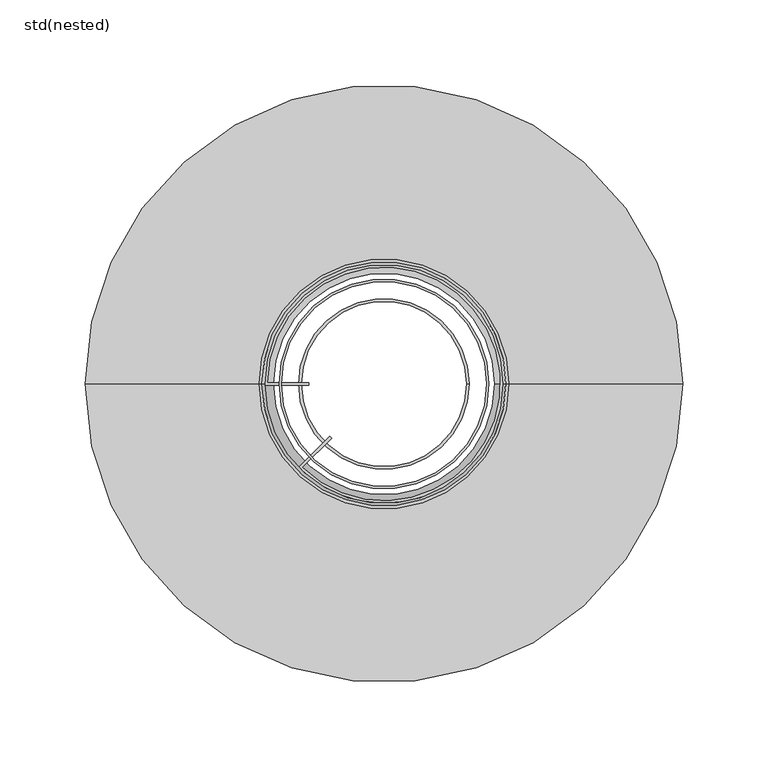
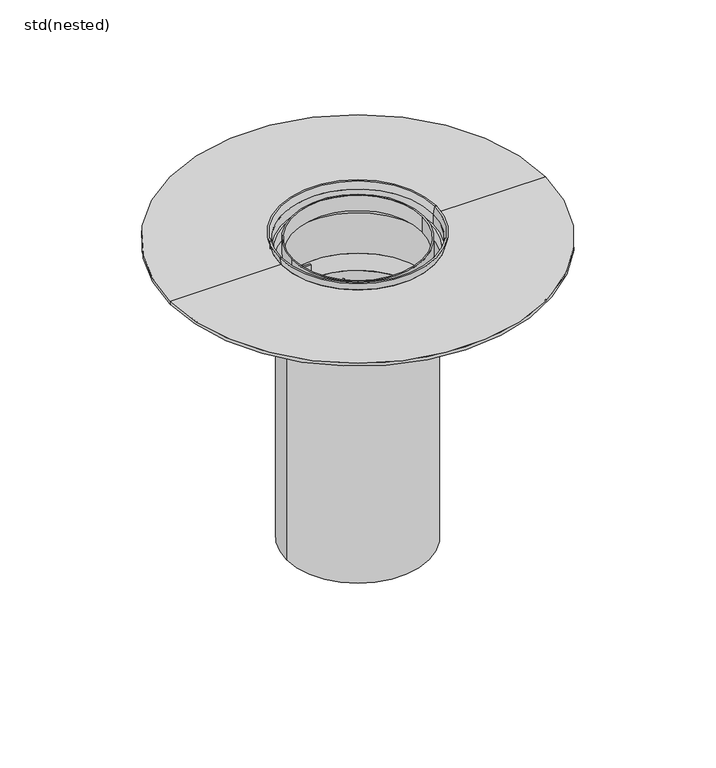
"""IFC4 building model written with IfcOpenShell, lengths in millimetres: sanitary terminal geometry, ZZZ_do not use_PF_ST_UN_balcony gully 300_ACO : std(nested)."""

import ifcopenshell
import ifcopenshell.guid

model = None  # the IFC model being written
_history = None  # IfcOwnerHistory: only IFC2X3 demands one
_inside = {}  # id of a spatial element -> (the spatial element, [elements in it])
_under = {}  # id of a project, library or spatial element -> (it, [spatial elements below it])
_declared = {}  # id of a project -> (the project, [libraries it declares])
_typed = {}  # id of a type object -> (the type object, [elements of that type])
_made_of = {}  # id of a material, layer set ... -> (it, [elements and type objects made of it])


def new_model(schema):
    """Start an empty IFC model of exactly this schema.

    Asked for "IFC4X3", IfcOpenShell would pick the latest addendum, in which some entities
    have other attributes; the version numbers below select the first issue.
    IFC2X3 requires an IfcOwnerHistory on every rooted entity: one is made here for all.
    """
    global model, _history
    if schema == "IFC4X3":
        model = ifcopenshell.file(schema_version=(4, 3, 0, 0))
    else:
        model = ifcopenshell.file(schema=schema)
    _inside.clear()
    _under.clear()
    _declared.clear()
    _typed.clear()
    _made_of.clear()
    _history = None
    if model.schema == "IFC2X3":
        org = make("IfcOrganization", Name="unknown")
        user = make(
            "IfcPersonAndOrganization",
            ThePerson=make("IfcPerson", FamilyName="unknown"),
            TheOrganization=org,
        )
        app = make(
            "IfcApplication",
            ApplicationDeveloper=org,
            Version="unknown",
            ApplicationFullName="unknown",
            ApplicationIdentifier="unknown",
        )
        _history = make(
            "IfcOwnerHistory",
            OwningUser=user,
            OwningApplication=app,
            ChangeAction="ADDED",
            CreationDate=0,
        )
    return model


def make(cls, **values):
    """One entity of the class cls with the attributes given. An attribute that is None is left unset."""
    return model.create_entity(
        cls, **{name: value for name, value in values.items() if value is not None}
    )


def rooted(cls, **values):
    """An entity with a GlobalId (a new one), such as an element, a storey or a relation."""
    return make(cls, GlobalId=ifcopenshell.guid.new(), OwnerHistory=_history, **values)


def si_unit(unit_type, name, prefix=None):
    """IfcSIUnit, for example si_unit("LENGTHUNIT", "METRE", prefix="MILLI")."""
    return make("IfcSIUnit", UnitType=unit_type, Prefix=prefix, Name=name)


def assignment(units):
    """IfcUnitAssignment: the units of a project."""
    return None if units is None else make("IfcUnitAssignment", Units=units)


def point(xyz):
    """IfcCartesianPoint."""
    return None if xyz is None else make("IfcCartesianPoint", Coordinates=xyz)


def direction(xyz):
    """IfcDirection."""
    return None if xyz is None else make("IfcDirection", DirectionRatios=xyz)


def frame(location, z_axis=None, x_axis=None):
    """IfcAxis2Placement3D, a coordinate frame: its origin and axes. An axis left out is left unset."""
    return make(
        "IfcAxis2Placement3D",
        Location=point(location),
        Axis=direction(z_axis),
        RefDirection=direction(x_axis),
    )


def frame_2d(location, x_axis=None):
    """IfcAxis2Placement2D, a coordinate frame in the plane: its origin and x axis."""
    return make(
        "IfcAxis2Placement2D", Location=point(location), RefDirection=direction(x_axis)
    )


def origin():
    """The frame at (0, 0, 0) with its axes left unset."""
    return frame((0.0, 0.0, 0.0))


def origin_2d():
    """The frame at (0, 0) in the plane with its x axis left unset."""
    return frame_2d((0.0, 0.0))


def place(relative_to, where):
    """IfcLocalPlacement: puts the frame where relative to a parent placement (None: the world)."""
    return make(
        "IfcLocalPlacement", PlacementRelTo=relative_to, RelativePlacement=where
    )


def context(
    kind, dimensions, precision=None, world=None, true_north=None, identifier=None
):
    """IfcGeometricRepresentationContext, for example the 3D "Model" context."""
    return make(
        "IfcGeometricRepresentationContext",
        ContextIdentifier=identifier,
        ContextType=kind,
        CoordinateSpaceDimension=dimensions,
        Precision=precision,
        WorldCoordinateSystem=world,
        TrueNorth=true_north,
    )


def project(units=None, contexts=None):
    """IfcProject with its units and contexts."""
    return rooted(
        "IfcProject",
        Name="project",
        RepresentationContexts=contexts,
        UnitsInContext=assignment(units),
    )


def spatial(cls, under=None, at=None, **own):
    """A site, building, storey or space (cls), placed at a placement, below another one or the project."""
    s = rooted(cls, ObjectPlacement=at, **own)
    if under is not None:
        _under.setdefault(under.id(), (under, []))[1].append(s)
    return s


def polyline(points):
    """IfcPolyline through the points."""
    return make("IfcPolyline", Points=[point(p) for p in points])


def circle_curve(where, radius):
    """IfcCircle in the frame where."""
    return make("IfcCircle", Position=where, Radius=radius)


def trimmed(basis, trim1, trim2, sense, master):
    """IfcTrimmedCurve: the piece of a basis curve between two trims."""
    return make(
        "IfcTrimmedCurve",
        BasisCurve=basis,
        Trim1=trim1,
        Trim2=trim2,
        SenseAgreement=sense,
        MasterRepresentation=master,
    )


def segment(curve, same_sense, transition):
    """IfcCompositeCurveSegment."""
    return make(
        "IfcCompositeCurveSegment",
        Transition=transition,
        SameSense=same_sense,
        ParentCurve=curve,
    )


def composite_curve(segments, self_intersect=None):
    """IfcCompositeCurve: segments joined end to end."""
    return make("IfcCompositeCurve", Segments=segments, SelfIntersect=self_intersect)


def outline(outer, holes=None, kind="AREA"):
    """IfcArbitraryClosedProfileDef: a profile drawn as a closed curve; with holes, ...WithVoids."""
    if holes is None:
        return make("IfcArbitraryClosedProfileDef", ProfileType=kind, OuterCurve=outer)
    return make(
        "IfcArbitraryProfileDefWithVoids",
        ProfileType=kind,
        OuterCurve=outer,
        InnerCurves=holes,
    )


def extrude(swept, where, along, depth):
    """IfcExtrudedAreaSolid: the profile swept, set in the frame where, extruded along a direction by depth."""
    return make(
        "IfcExtrudedAreaSolid",
        SweptArea=swept,
        Position=where,
        ExtrudedDirection=direction(along),
        Depth=depth,
    )


def shape(context_of_items, identifier, shape_type, items):
    """IfcShapeRepresentation: the items that make up one representation, for example the "Body"."""
    return make(
        "IfcShapeRepresentation",
        ContextOfItems=context_of_items,
        RepresentationIdentifier=identifier,
        RepresentationType=shape_type,
        Items=items,
    )


def source(mapping_origin, context_of_items, identifier, shape_type, items):
    """IfcRepresentationMap: a shape defined once, which mapped items show again and again."""
    return make(
        "IfcRepresentationMap",
        MappingOrigin=mapping_origin,
        MappedRepresentation=shape(context_of_items, identifier, shape_type, items),
    )


def transform(
    local_origin,
    x_axis=None,
    y_axis=None,
    z_axis=None,
    scale=None,
    scale2=None,
    scale3=None,
    uniform=True,
):
    """IfcCartesianTransformationOperator3D, or its non-uniform kind. x_axis, y_axis, z_axis: its Axis1, 2, 3."""
    if uniform:
        return make(
            "IfcCartesianTransformationOperator3D",
            Axis1=direction(x_axis),
            Axis2=direction(y_axis),
            LocalOrigin=point(local_origin),
            Scale=scale,
            Axis3=direction(z_axis),
        )
    return make(
        "IfcCartesianTransformationOperator3DnonUniform",
        Axis1=direction(x_axis),
        Axis2=direction(y_axis),
        LocalOrigin=point(local_origin),
        Scale=scale,
        Axis3=direction(z_axis),
        Scale2=scale2,
        Scale3=scale3,
    )


def mapped(mapping_source, mapping_target):
    """IfcMappedItem: shows the shape of a source again, moved by a transform."""
    return make(
        "IfcMappedItem", MappingSource=mapping_source, MappingTarget=mapping_target
    )


def made_of(thing, what):
    """Note that an element or type object is made of a material, layer set ...; save() writes the relation."""
    if what is not None:
        _made_of.setdefault(what.id(), (what, []))[1].append(thing)
    return thing


def element(
    cls,
    number,
    at=None,
    inside=None,
    cuts=None,
    type_object=None,
    material=None,
    context=None,
    identifier="Body",
    shape_type=None,
    held_by="IfcProductDefinitionShape",
    body=None,
    shapes=None,
    **own,
):
    """One element of the class cls, such as IfcWall. Its Tag is "e" and its number.

    at: its placement. inside: the storey or other place that contains it. cuts: it is an
    opening in that element (IfcRelVoidsElement). A single representation is given by context,
    identifier, shape_type and body (its items); several are given by shapes. held_by: the class
    of the entity that holds the representations. save() writes the other relations.
    """
    e = rooted(cls, Tag="e%d" % number, ObjectPlacement=at, **own)
    if body is not None:
        shapes = [shape(context, identifier, shape_type, body)]
    if shapes is not None:
        e.Representation = make(held_by, Representations=shapes)
    if inside is not None:
        _inside.setdefault(inside.id(), (inside, []))[1].append(e)
    if cuts is not None:
        rooted(
            "IfcRelVoidsElement", RelatingBuildingElement=cuts, RelatedOpeningElement=e
        )
    if type_object is not None:
        _typed.setdefault(type_object.id(), (type_object, []))[1].append(e)
    return made_of(e, material)


def aggregate(whole, parts):
    """IfcRelAggregates: a whole, such as a stair, and the parts it consists of."""
    return rooted("IfcRelAggregates", RelatingObject=whole, RelatedObjects=parts)


def save(model, path):
    """Write the relations noted so far, then the file.

    IfcRelAggregates (storeys below a building ...), IfcRelContainedInSpatialStructure (elements
    in a storey), IfcRelDefinesByType, IfcRelAssociatesMaterial and IfcRelDeclares: one each for
    every whole, place, type object, material and project.
    """
    for whole, parts in _under.values():
        aggregate(whole, parts)
    for where, things in _inside.values():
        rooted(
            "IfcRelContainedInSpatialStructure",
            RelatedElements=things,
            RelatingStructure=where,
        )
    for kind, things in _typed.values():
        rooted("IfcRelDefinesByType", RelatedObjects=things, RelatingType=kind)
    for what, things in _made_of.values():
        rooted("IfcRelAssociatesMaterial", RelatedObjects=things, RelatingMaterial=what)
    for by, libraries in _declared.values():
        rooted("IfcRelDeclares", RelatingContext=by, RelatedDefinitions=libraries)
    model.write(path)


def plane_surface(at):
    """IfcPlane: the flat surface through the origin of the frame at, square to its z axis."""
    return make("IfcPlane", Position=at)


def cylinder_surface(at, radius):
    """IfcCylindricalSurface: all points at the distance radius from the z axis of the frame at."""
    return make("IfcCylindricalSurface", Position=at, Radius=radius)


def revolved_surface(curve, axis_point, axis_direction):
    """IfcSurfaceOfRevolution: the curve turned about the line through axis_point along axis_direction."""
    return make(
        "IfcSurfaceOfRevolution",
        SweptCurve=make("IfcArbitraryOpenProfileDef", ProfileType="CURVE", Curve=curve),
        AxisPosition=make("IfcAxis1Placement", Location=point(axis_point), Axis=direction(axis_direction)),
    )


def advanced_brep(points, edges, surfaces, faces):
    """IfcAdvancedBrep: a solid bounded by faces that lie on surfaces and meet in shared edges.

    An edge is (start, end): straight between two places in points (the first is 0);
    or (start, end, curve); or (start, end, curve, False) where it runs against its curve.
    A face is (place in surfaces, loops), or (place, loops, False) where it looks against
    its surface's normal. A loop lists edges by number (the first is 1), with a minus sign
    where the edge is run from its end to its start. The first loop is the outer one.
    """
    corners = [point(p) for p in points]
    vertices = [make("IfcVertexPoint", VertexGeometry=c) for c in corners]
    made = []
    for start, end, *more in edges:
        made.append(
            make(
                "IfcEdgeCurve",
                EdgeStart=vertices[start],
                EdgeEnd=vertices[end],
                EdgeGeometry=more[0] if more else make("IfcPolyline", Points=[corners[start], corners[end]]),
                SameSense=more[1] if len(more) > 1 else True,
            )
        )
    hull = []
    for where, loops, *sense in faces:
        bounds = []
        for j, loop in enumerate(loops):
            ring = [make("IfcOrientedEdge", EdgeElement=made[abs(k) - 1], Orientation=k > 0) for k in loop]
            bounds.append(
                make(
                    "IfcFaceOuterBound" if j == 0 else "IfcFaceBound",
                    Bound=make("IfcEdgeLoop", EdgeList=ring),
                    Orientation=True,
                )
            )
        hull.append(make("IfcAdvancedFace", Bounds=bounds, FaceSurface=surfaces[where], SameSense=sense[0] if sense else True))
    return make("IfcAdvancedBrep", Outer=make("IfcClosedShell", CfsFaces=hull))


def std_nested_11a4e83f(model_context):
    return source(origin(), model_context, "Body", "SolidModel", [
        extrude(outline(composite_curve([segment(trimmed(circle_curve(origin_2d(), 61.5), [point((-61.5, 0.0))], [point((61.5, 0.0))], False, "CARTESIAN"), True, "CONTINUOUS"), segment(trimmed(circle_curve(origin_2d(), 61.5), [point((61.5, 0.0))], [point((-61.5, 0.0))], False, "CARTESIAN"), True, "CONTINUOUS")], self_intersect=False), holes=[composite_curve([segment(trimmed(circle_curve(origin_2d(), 60.0), [point((-60.0, 0.0))], [point((60.0, 0.0))], True, "CARTESIAN"), True, "CONTINUOUS"), segment(trimmed(circle_curve(origin_2d(), 60.0), [point((60.0, 0.0))], [point((-60.0, 0.0))], True, "CARTESIAN"), True, "CONTINUOUS")], self_intersect=False)]), frame((0.0, 0.0, -21.0), z_axis=(0.0, 0.0, 1.0), x_axis=(1.0, 0.0, 0.0)), (0.0, 0.0, 1.0), 15.0),
        advanced_brep(
        [(71.6480246, 0.0, -7.0), (-71.6480246, 0.0, -7.0), (-73.1480246, 0.0, 0.0), (73.1480246, 0.0, 0.0), (71.6480246, 0.0, -70.0), (-71.6480246, 0.0, -70.0), (66.5, 0.0, -83.5), (-66.5, 0.0, -83.5), (66.5, 0.0, -300.0), (-66.5, 0.0, -300.0), (64.8519754, 0.0, -300.0), (-64.8519754, 0.0, -300.0), (64.8519754, 0.0, -83.5), (-64.8519754, 0.0, -83.5), (70.0, 0.0, -70.0), (-70.0, 0.0, -70.0), (70.0, 0.0, -29.0), (-70.0, 0.0, -29.0), (70.0, 0.0, -7.0), (-70.0, 0.0, -7.0), (-70.0, 0.0, -16.3795872), (70.0, 0.0, -16.3795872), (-69.9954284, -0.8, -29.0), (-69.9954284, -0.8, -16.3795872), (-50.0599275, -48.9285567, -16.3795872), (-50.0599275, -48.9285567, -29.0), (71.5, 0.0, 0.0), (-71.5, 0.0, 0.0), (-31.6783838, -30.5470129, -29.0), (-30.5470129, -31.6783838, -29.0), (-47.7971102, -48.928481, -29.0), (-68.3953215, 0.8, -29.0), (-44.0, 0.8, -29.0), (-44.0, -0.8, -29.0), (-44.0, -0.8, -16.3795872), (-44.0, 0.8, -16.3795872), (-68.3953215, 0.8, -16.3795872), (-47.7971102, -48.928481, -16.3795872), (-30.5470129, -31.6783838, -16.3795872), (-31.6783838, -30.5470129, -16.3795872)],
        [
            (0, 1, circle_curve(frame((0.0, 0.0, -7.0), z_axis=(0.0, 0.0, 1.0), x_axis=(-1.0, 0.0, 0.0)), 71.6480246)),
            (1, 2),
            (2, 3, circle_curve(frame((0.0, 0.0, 0.0), z_axis=(0.0, 0.0, -1.0), x_axis=(-1.0, 0.0, 0.0)), 73.1480246)),
            (3, 0),
            (1, 0, circle_curve(frame((0.0, 0.0, -7.0), z_axis=(0.0, 0.0, 1.0), x_axis=(-1.0, 0.0, 0.0)), 71.6480246)),
            (3, 2, circle_curve(frame((0.0, 0.0, 0.0), z_axis=(0.0, 0.0, -1.0), x_axis=(-1.0, 0.0, 0.0)), 73.1480246)),
            (0, 4),
            (4, 5, circle_curve(frame((0.0, 0.0, -70.0), z_axis=(0.0, 0.0, 1.0), x_axis=(-1.0, 0.0, 0.0)), 71.6480246)),
            (5, 1),
            (5, 4, circle_curve(frame((0.0, 0.0, -70.0), z_axis=(0.0, 0.0, 1.0), x_axis=(-1.0, 0.0, 0.0)), 71.6480246)),
            (4, 6),
            (6, 7, circle_curve(frame((0.0, 0.0, -83.5), z_axis=(0.0, 0.0, 1.0), x_axis=(-1.0, 0.0, 0.0)), 66.5)),
            (7, 5),
            (7, 6, circle_curve(frame((0.0, 0.0, -83.5), z_axis=(0.0, 0.0, 1.0), x_axis=(-1.0, 0.0, 0.0)), 66.5)),
            (6, 8),
            (8, 9, circle_curve(frame((0.0, 0.0, -300.0), z_axis=(0.0, 0.0, 1.0), x_axis=(-1.0, 0.0, 0.0)), 66.5)),
            (9, 7),
            (9, 8, circle_curve(frame((0.0, 0.0, -300.0), z_axis=(0.0, 0.0, 1.0), x_axis=(-1.0, 0.0, 0.0)), 66.5)),
            (8, 10),
            (10, 11, circle_curve(frame((0.0, 0.0, -300.0), z_axis=(0.0, 0.0, 1.0), x_axis=(-1.0, 0.0, 0.0)), 64.8519754)),
            (11, 9),
            (11, 10, circle_curve(frame((0.0, 0.0, -300.0), z_axis=(0.0, 0.0, 1.0), x_axis=(-1.0, 0.0, 0.0)), 64.8519754)),
            (10, 12),
            (12, 13, circle_curve(frame((0.0, 0.0, -83.5), z_axis=(0.0, 0.0, 1.0), x_axis=(-1.0, 0.0, 0.0)), 64.8519754)),
            (13, 11),
            (13, 12, circle_curve(frame((0.0, 0.0, -83.5), z_axis=(0.0, 0.0, 1.0), x_axis=(-1.0, 0.0, 0.0)), 64.8519754)),
            (12, 14),
            (14, 15, circle_curve(frame((0.0, 0.0, -70.0), z_axis=(0.0, 0.0, 1.0), x_axis=(-1.0, 0.0, 0.0)), 70.0)),
            (15, 13),
            (15, 14, circle_curve(frame((0.0, 0.0, -70.0), z_axis=(0.0, 0.0, 1.0), x_axis=(-1.0, 0.0, 0.0)), 70.0)),
            (14, 16),
            (16, 17, circle_curve(frame((0.0, 0.0, -29.0), z_axis=(0.0, 0.0, 1.0), x_axis=(-1.0, 0.0, 0.0)), 70.0)),
            (17, 15),
            (18, 19, circle_curve(frame((0.0, 0.0, -7.0), z_axis=(0.0, 0.0, 1.0), x_axis=(-1.0, 0.0, 0.0)), 70.0)),
            (19, 20),
            (20, 21, circle_curve(frame((0.0, 0.0, -16.3795872), z_axis=(0.0, 0.0, -1.0), x_axis=(-1.0, 0.0, 0.0)), 70.0)),
            (21, 18),
            (17, 22, circle_curve(frame((0.0, 0.0, -29.0), z_axis=(0.0, 0.0, 1.0), x_axis=(-1.0, 0.0, 0.0)), 70.0)),
            (22, 23),
            (23, 20, circle_curve(frame((0.0, 0.0, -16.3795872), z_axis=(0.0, 0.0, -1.0), x_axis=(-1.0, 0.0, 0.0)), 70.0)),
            (19, 18, circle_curve(frame((0.0, 0.0, -7.0), z_axis=(0.0, 0.0, 1.0), x_axis=(-1.0, 0.0, 0.0)), 70.0)),
            (21, 24, circle_curve(frame((0.0, 0.0, -16.3795872), z_axis=(0.0, 0.0, -1.0), x_axis=(-1.0, 0.0, 0.0)), 70.0)),
            (24, 25),
            (25, 16, circle_curve(frame((0.0, 0.0, -29.0), z_axis=(0.0, 0.0, 1.0), x_axis=(-1.0, 0.0, 0.0)), 70.0)),
            (18, 26),
            (26, 27, circle_curve(frame((0.0, 0.0, 0.0), z_axis=(0.0, 0.0, 1.0), x_axis=(-1.0, 0.0, 0.0)), 71.5)),
            (27, 19),
            (27, 26, circle_curve(frame((0.0, 0.0, 0.0), z_axis=(0.0, 0.0, 1.0), x_axis=(-1.0, 0.0, 0.0)), 71.5)),
            (2, 27),
            (26, 3),
            (25, 28),
            (28, 29),
            (29, 30),
            (30, 31, circle_curve(frame((0.0, 0.0, -29.0), z_axis=(0.0, 0.0, 1.0), x_axis=(1.0, 0.0, 0.0)), 68.4)),
            (31, 32),
            (32, 33),
            (33, 22),
            (23, 34),
            (34, 35),
            (35, 36),
            (36, 37, circle_curve(frame((0.0, 0.0, -16.3795872), z_axis=(0.0, 0.0, -1.0), x_axis=(1.0, 0.0, 0.0)), 68.4)),
            (37, 38),
            (38, 39),
            (39, 24),
            (33, 34),
            (32, 35),
            (31, 36),
            (30, 37),
            (29, 38),
            (28, 39),
        ],
        [
            revolved_surface(polyline([(-73.1480246, 0.0, 0.0), (-71.6480246, 0.0, -7.0)]), (0.0, 0.0, 0.0), (0.0, 0.0, -1.0)),
            cylinder_surface(frame((0.0, 0.0, 0.0), z_axis=(0.0, 0.0, -1.0), x_axis=(-1.0, 0.0, 0.0)), 71.6480246),
            revolved_surface(polyline([(-71.6480246, 0.0, -70.0), (-66.5, 0.0, -83.5)]), (0.0, 0.0, 0.0), (0.0, 0.0, -1.0)),
            cylinder_surface(frame((0.0, 0.0, 0.0), z_axis=(0.0, 0.0, -1.0), x_axis=(-1.0, 0.0, 0.0)), 66.5),
            plane_surface(frame((0.0, 0.0, -300.0), z_axis=(0.0, 0.0, -1.0), x_axis=(-1.0, 0.0, 0.0))),
            revolved_surface(polyline([(-64.8519754, 0.0, -300.0), (-64.8519754, 0.0, -83.5)]), (0.0, 0.0, 0.0), (0.0, 0.0, -1.0)),
            revolved_surface(polyline([(-64.8519754, 0.0, -83.5), (-70.0, 0.0, -70.0)]), (0.0, 0.0, 0.0), (0.0, 0.0, -1.0)),
            revolved_surface(polyline([(-70.0, 0.0, -70.0), (-70.0, 0.0, -29.0)]), (0.0, 0.0, 0.0), (0.0, 0.0, -1.0)),
            revolved_surface(polyline([(-70.0, 0.0, -16.3795872), (-70.0, 0.0, -7.0)]), (0.0, 0.0, 0.0), (0.0, 0.0, -1.0)),
            revolved_surface(polyline([(-70.0, 0.0, -70.0), (-70.0, 0.0, -7.0)]), (0.0, 0.0, 0.0), (0.0, 0.0, -1.0)),
            revolved_surface(polyline([(-70.0, 0.0, -7.0), (-71.5, 0.0, 0.0)]), (0.0, 0.0, 0.0), (0.0, 0.0, -1.0)),
            plane_surface(frame((0.0, 0.0, 0.0), z_axis=(0.0, 0.0, 1.0), x_axis=(-1.0, 0.0, 0.0))),
            plane_surface(frame((-69.9954284, -0.8, -29.0), z_axis=(0.0, 0.0, -1.0), x_axis=(-1.0, 0.0, 0.0))),
            plane_surface(frame((-69.9954284, -0.8, -16.3795872), z_axis=(0.0, 0.0, 1.0), x_axis=(1.0, 0.0, 0.0))),
            plane_surface(frame((-69.9954284, -0.8, -16.3795872), z_axis=(0.0, -1.0, 0.0), x_axis=(0.0, 0.0, -1.0))),
            plane_surface(frame((-44.0, -0.8, -16.3795872), z_axis=(1.0, 0.0, 0.0), x_axis=(0.0, 0.0, -1.0))),
            plane_surface(frame((-44.0, 0.8, -16.3795872), z_axis=(0.0, 1.0, 0.0), x_axis=(0.0, 0.0, -1.0))),
            revolved_surface(polyline([(68.4, 0.0, -29.0), (68.4, 0.0, -16.3795872)]), (0.0, 0.0, -29.0), (0.0, 0.0, -1.0)),
            plane_surface(frame((-47.7971102, -48.928481, -16.3795872), z_axis=(0.7071067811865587, -0.7071067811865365, 0.0), x_axis=(0.0, 0.0, -1.0))),
            plane_surface(frame((-30.5470129, -31.6783838, -16.3795872), z_axis=(0.7071067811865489, 0.7071067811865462, 0.0), x_axis=(0.0, 0.0, -1.0))),
            plane_surface(frame((-31.6783838, -30.5470129, -16.3795872), z_axis=(-0.707106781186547, 0.7071067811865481, 0.0), x_axis=(0.0, 0.0, -1.0))),
        ],
        [
            (0, [[1, 2, 3, 4]]),
            (0, [[-2, 5, -4, 6]]),
            (1, [[-1, 7, 8, 9]]),
            (1, [[-5, -9, 10, -7]]),
            (2, [[-8, 11, 12, 13]]),
            (2, [[-10, -13, 14, -11]]),
            (3, [[-12, 15, 16, 17]]),
            (3, [[-14, -17, 18, -15]]),
            (4, [[-16, 19, 20, 21]]),
            (4, [[-18, -21, 22, -19]]),
            (5, [[-20, 23, 24, 25]]),
            (5, [[-22, -25, 26, -23]]),
            (6, [[-24, 27, 28, 29]]),
            (6, [[-26, -29, 30, -27]]),
            (7, [[-28, 31, 32, 33]]),
            (8, [[34, 35, 36, 37]]),
            (9, [[-30, -33, 38, 39, 40, -35, 41, -37, 42, 43, 44, -31]]),
            (10, [[-34, 45, 46, 47]]),
            (10, [[-41, -47, 48, -45]]),
            (11, [[-3, 49, -46, 50]]),
            (11, [[-6, -50, -48, -49]]),
            (12, [[51, 52, 53, 54, 55, 56, 57, -38, -32, -44]]),
            (13, [[58, 59, 60, 61, 62, 63, 64, -42, -36, -40]]),
            (14, [[-57, 65, -58, -39]]),
            (15, [[-56, 66, -59, -65]]),
            (16, [[-55, 67, -60, -66]]),
            (17, [[-54, 68, -61, -67]]),
            (18, [[-53, 69, -62, -68]]),
            (19, [[-52, 70, -63, -69]]),
            (20, [[-51, -43, -64, -70]]),
        ],
    ),
        advanced_brep(
        [(50.0, 0.0, -298.0), (-50.0, 0.0, -298.0), (-50.0, 0.0, -83.5), (50.0, 0.0, -83.5), (48.444252, 0.0, -298.0), (-48.444252, 0.0, -298.0), (48.444252, 0.0, -83.5), (-48.444252, 0.0, -83.5)],
        [
            (0, 1, circle_curve(frame((0.0, 0.0, -298.0), z_axis=(0.0, 0.0, 1.0), x_axis=(-1.0, 0.0, 0.0)), 50.0)),
            (1, 2),
            (2, 3, circle_curve(frame((0.0, 0.0, -83.5), z_axis=(0.0, 0.0, -1.0), x_axis=(-1.0, 0.0, 0.0)), 50.0)),
            (3, 0),
            (1, 0, circle_curve(frame((0.0, 0.0, -298.0), z_axis=(0.0, 0.0, 1.0), x_axis=(-1.0, 0.0, 0.0)), 50.0)),
            (3, 2, circle_curve(frame((0.0, 0.0, -83.5), z_axis=(0.0, 0.0, -1.0), x_axis=(-1.0, 0.0, 0.0)), 50.0)),
            (0, 4),
            (4, 5, circle_curve(frame((0.0, 0.0, -298.0), z_axis=(0.0, 0.0, 1.0), x_axis=(-1.0, 0.0, 0.0)), 48.444252)),
            (5, 1),
            (5, 4, circle_curve(frame((0.0, 0.0, -298.0), z_axis=(0.0, 0.0, 1.0), x_axis=(-1.0, 0.0, 0.0)), 48.444252)),
            (4, 6),
            (6, 7, circle_curve(frame((0.0, 0.0, -83.5), z_axis=(0.0, 0.0, 1.0), x_axis=(-1.0, 0.0, 0.0)), 48.444252)),
            (7, 5),
            (7, 6, circle_curve(frame((0.0, 0.0, -83.5), z_axis=(0.0, 0.0, 1.0), x_axis=(-1.0, 0.0, 0.0)), 48.444252)),
            (2, 7),
            (6, 3),
        ],
        [
            cylinder_surface(frame((0.0, 0.0, 0.0), z_axis=(0.0, 0.0, -1.0), x_axis=(-1.0, 0.0, 0.0)), 50.0),
            plane_surface(frame((0.0, 0.0, -298.0), z_axis=(0.0, 0.0, -1.0), x_axis=(-1.0, 0.0, 0.0))),
            revolved_surface(polyline([(-48.444252, 0.0, -298.0), (-48.444252, 0.0, -83.5)]), (0.0, 0.0, 0.0), (0.0, 0.0, -1.0)),
            plane_surface(frame((0.0, 0.0, -83.5), z_axis=(0.0, 0.0, 1.0), x_axis=(-1.0, 0.0, 0.0))),
        ],
        [
            (0, [[1, 2, 3, 4]]),
            (0, [[-2, 5, -4, 6]]),
            (1, [[-1, 7, 8, 9]]),
            (1, [[-5, -9, 10, -7]]),
            (2, [[-8, 11, 12, 13]]),
            (2, [[-10, -13, 14, -11]]),
            (3, [[-3, 15, -12, 16]]),
            (3, [[-6, -16, -14, -15]]),
        ],
    ),
        advanced_brep(
        [(71.5, 0.0, -7.0), (-71.5, 0.0, -7.0), (-71.5, 0.0, -9.9832621), (71.5, 0.0, -9.9832621), (175.0, 0.0, -7.0), (-175.0, 0.0, -7.0), (175.0, 0.0, -9.9832621), (-175.0, 0.0, -9.9832621)],
        [
            (0, 1, circle_curve(frame((0.0, 0.0, -7.0), z_axis=(0.0, 0.0, 1.0), x_axis=(-1.0, 0.0, 0.0)), 71.5)),
            (1, 2),
            (2, 3, circle_curve(frame((0.0, 0.0, -9.9832621), z_axis=(0.0, 0.0, -1.0), x_axis=(-1.0, 0.0, 0.0)), 71.5)),
            (3, 0),
            (1, 0, circle_curve(frame((0.0, 0.0, -7.0), z_axis=(0.0, 0.0, 1.0), x_axis=(-1.0, 0.0, 0.0)), 71.5)),
            (3, 2, circle_curve(frame((0.0, 0.0, -9.9832621), z_axis=(0.0, 0.0, -1.0), x_axis=(-1.0, 0.0, 0.0)), 71.5)),
            (4, 5, circle_curve(frame((0.0, 0.0, -7.0), z_axis=(0.0, 0.0, 1.0), x_axis=(-1.0, 0.0, 0.0)), 175.0)),
            (5, 1),
            (0, 4),
            (5, 4, circle_curve(frame((0.0, 0.0, -7.0), z_axis=(0.0, 0.0, 1.0), x_axis=(-1.0, 0.0, 0.0)), 175.0)),
            (6, 7, circle_curve(frame((0.0, 0.0, -9.9832621), z_axis=(0.0, 0.0, 1.0), x_axis=(-1.0, 0.0, 0.0)), 175.0)),
            (7, 5),
            (4, 6),
            (7, 6, circle_curve(frame((0.0, 0.0, -9.9832621), z_axis=(0.0, 0.0, 1.0), x_axis=(-1.0, 0.0, 0.0)), 175.0)),
            (2, 7),
            (6, 3),
        ],
        [
            revolved_surface(polyline([(-71.5, 0.0, -9.983262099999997), (-71.5, 0.0, -7.0)]), (0.0, 0.0, 10.0), (0.0, 0.0, -1.0)),
            plane_surface(frame((0.0, 0.0, -7.0), z_axis=(0.0, 0.0, 1.0), x_axis=(-1.0, 0.0, 0.0))),
            cylinder_surface(frame((0.0, 0.0, 10.0), z_axis=(0.0, 0.0, -1.0), x_axis=(-1.0, 0.0, 0.0)), 175.0),
            plane_surface(frame((0.0, 0.0, -9.9832621), z_axis=(0.0, 0.0, -1.0), x_axis=(-1.0, 0.0, 0.0))),
        ],
        [
            (0, [[1, 2, 3, 4]]),
            (0, [[5, -4, 6, -2]]),
            (1, [[7, 8, -1, 9]]),
            (1, [[10, -9, -5, -8]]),
            (2, [[11, 12, -7, 13]]),
            (2, [[14, -13, -10, -12]]),
            (3, [[-3, 15, -11, 16]]),
            (3, [[-6, -16, -14, -15]]),
        ],
    ),
    ])


if __name__ == "__main__":
    model = new_model("IFC4")
    model_context = context("Model", 3, world=origin())
    ifc_project = project(units=[si_unit("LENGTHUNIT", "METRE", prefix="MILLI")], contexts=[model_context])
    site = spatial("IfcSite", under=ifc_project)
    building = spatial("IfcBuilding", under=site)
    placement = place(None, origin())
    std_nested_shape = std_nested_11a4e83f(model_context)
    element("IfcSanitaryTerminal", 1, ObjectType="ZZZ_do not use_PF_ST_UN_balcony gully 300_ACO : std(nested)", at=placement, inside=building, context=model_context, shape_type="MappedRepresentation", body=[
        mapped(std_nested_shape, transform((0.0, 0.0, 0.0), x_axis=(1.0, 0.0, 0.0), y_axis=(0.0, 1.0, 0.0), z_axis=(0.0, 0.0, 1.0))),
    ])
    save(model, "model.ifc")
